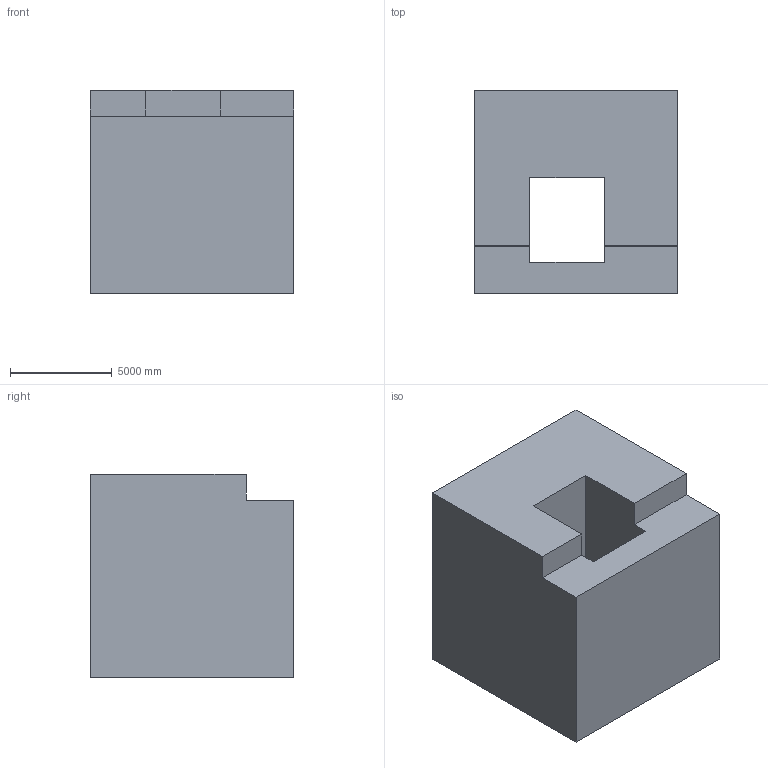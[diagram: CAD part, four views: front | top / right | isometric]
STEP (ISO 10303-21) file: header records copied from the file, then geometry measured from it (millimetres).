
FILE_DESCRIPTION (( 'STEP AP203' ), '1' );
FILE_NAME ('326.STEP', '2022-07-28T14:21:08', ( 'user' ), ( '' ), 'SwSTEP 2.0', 'SolidWorks 2021', '' );
FILE_SCHEMA (( 'CONFIG_CONTROL_DESIGN' ));
Length unit declared in the file: centimetre
Products named in the file (1): 326
Bounding box: 10000 x 10000 x 10000 mm (x, y, z)
Volume: 816192705125.6 mm3; surface area: 718078030.8 mm2
Topology: 1 solids, 1 shells, 24 faces, 66 edges, 44 vertices
Faces by surface type: plane 24
Entity records: 831 total; most frequent: CARTESIAN_POINT 135, ORIENTED_EDGE 132, DIRECTION 116, LINE 66, VECTOR 66, EDGE_CURVE 66, VERTEX_POINT 44, EDGE_LOOP 26
